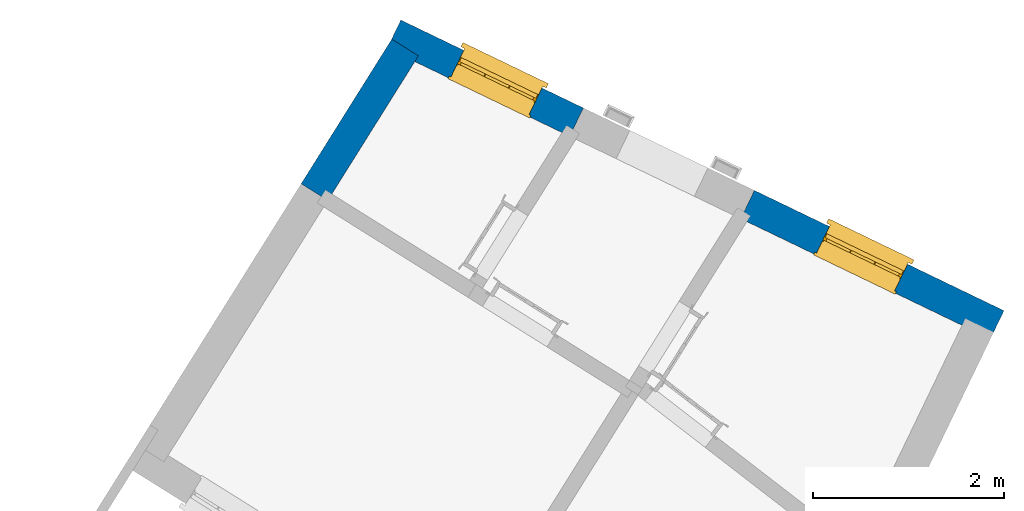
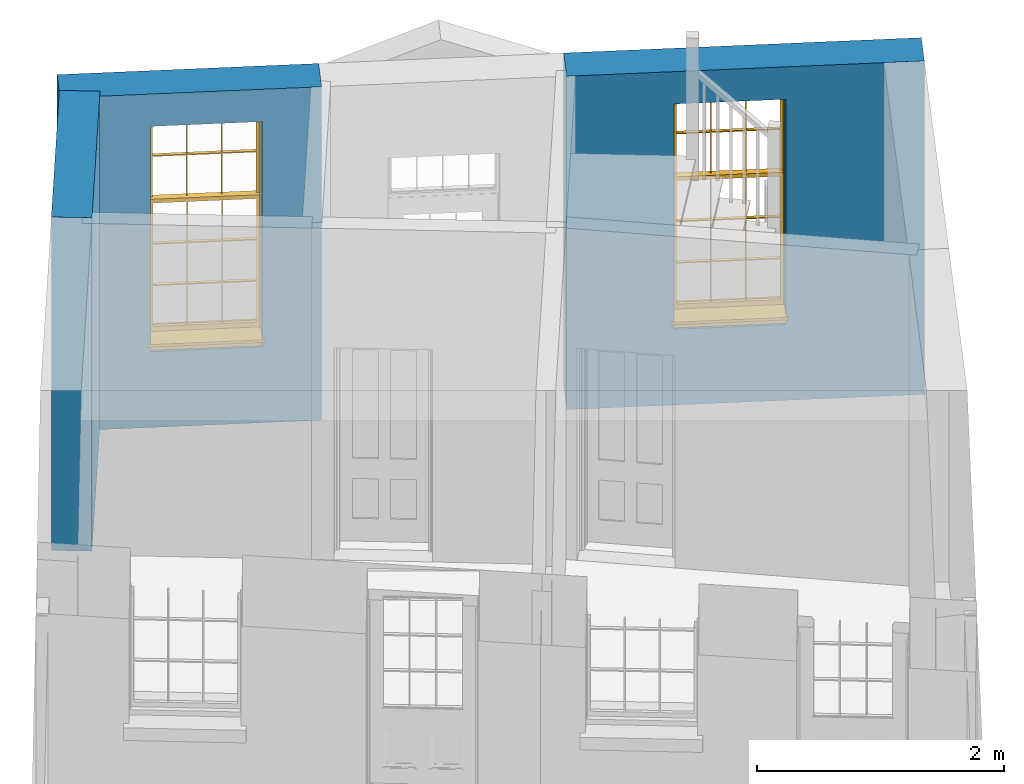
# One storey, part 4 of 6: 3 walls, 2 windows, 2 openings.
"""IFC4 building model written with IfcOpenShell, lengths in metres."""

import ifcopenshell
import ifcopenshell.guid

model = None  # the IFC model being written
_history = None  # IfcOwnerHistory: only IFC2X3 demands one
_inside = {}  # id of a spatial element -> (the spatial element, [elements in it])
_under = {}  # id of a project, library or spatial element -> (it, [spatial elements below it])
_declared = {}  # id of a project -> (the project, [libraries it declares])
_typed = {}  # id of a type object -> (the type object, [elements of that type])
_made_of = {}  # id of a material, layer set ... -> (it, [elements and type objects made of it])


def new_model(schema):
    """Start an empty IFC model of exactly this schema.

    Asked for "IFC4X3", IfcOpenShell would pick the latest addendum, in which some entities
    have other attributes; the version numbers below select the first issue.
    IFC2X3 requires an IfcOwnerHistory on every rooted entity: one is made here for all.
    """
    global model, _history
    if schema == "IFC4X3":
        model = ifcopenshell.file(schema_version=(4, 3, 0, 0))
    else:
        model = ifcopenshell.file(schema=schema)
    _inside.clear()
    _under.clear()
    _declared.clear()
    _typed.clear()
    _made_of.clear()
    _history = None
    if model.schema == "IFC2X3":
        org = make("IfcOrganization", Name="unknown")
        user = make(
            "IfcPersonAndOrganization",
            ThePerson=make("IfcPerson", FamilyName="unknown"),
            TheOrganization=org,
        )
        app = make(
            "IfcApplication",
            ApplicationDeveloper=org,
            Version="unknown",
            ApplicationFullName="unknown",
            ApplicationIdentifier="unknown",
        )
        _history = make(
            "IfcOwnerHistory",
            OwningUser=user,
            OwningApplication=app,
            ChangeAction="ADDED",
            CreationDate=0,
        )
    return model


def make(cls, **values):
    """One entity of the class cls with the attributes given. An attribute that is None is left unset."""
    return model.create_entity(
        cls, **{name: value for name, value in values.items() if value is not None}
    )


def rooted(cls, **values):
    """An entity with a GlobalId (a new one), such as an element, a storey or a relation."""
    return make(cls, GlobalId=ifcopenshell.guid.new(), OwnerHistory=_history, **values)


def si_unit(unit_type, name, prefix=None):
    """IfcSIUnit, for example si_unit("LENGTHUNIT", "METRE", prefix="MILLI")."""
    return make("IfcSIUnit", UnitType=unit_type, Prefix=prefix, Name=name)


def assignment(units):
    """IfcUnitAssignment: the units of a project."""
    return None if units is None else make("IfcUnitAssignment", Units=units)


def point(xyz):
    """IfcCartesianPoint."""
    return None if xyz is None else make("IfcCartesianPoint", Coordinates=xyz)


def direction(xyz):
    """IfcDirection."""
    return None if xyz is None else make("IfcDirection", DirectionRatios=xyz)


def frame(location, z_axis=None, x_axis=None):
    """IfcAxis2Placement3D, a coordinate frame: its origin and axes. An axis left out is left unset."""
    return make(
        "IfcAxis2Placement3D",
        Location=point(location),
        Axis=direction(z_axis),
        RefDirection=direction(x_axis),
    )


def origin():
    """The frame at (0, 0, 0) with its axes left unset."""
    return frame((0.0, 0.0, 0.0))


def origin_with_axes():
    """The frame at (0, 0, 0) with the z axis (0, 0, 1) and the x axis (1, 0, 0) written out."""
    return frame((0.0, 0.0, 0.0), z_axis=(0.0, 0.0, 1.0), x_axis=(1.0, 0.0, 0.0))


def place(relative_to, where):
    """IfcLocalPlacement: puts the frame where relative to a parent placement (None: the world)."""
    return make(
        "IfcLocalPlacement", PlacementRelTo=relative_to, RelativePlacement=where
    )


def context(
    kind, dimensions, precision=None, world=None, true_north=None, identifier=None
):
    """IfcGeometricRepresentationContext, for example the 3D "Model" context."""
    return make(
        "IfcGeometricRepresentationContext",
        ContextIdentifier=identifier,
        ContextType=kind,
        CoordinateSpaceDimension=dimensions,
        Precision=precision,
        WorldCoordinateSystem=world,
        TrueNorth=true_north,
    )


def subcontext(parent, identifier, kind, view, scale=None):
    """IfcGeometricRepresentationSubContext, for example "Body" below "Model"."""
    return make(
        "IfcGeometricRepresentationSubContext",
        ContextIdentifier=identifier,
        ContextType=kind,
        ParentContext=parent,
        TargetScale=scale,
        TargetView=view,
    )


def project(units=None, contexts=None):
    """IfcProject with its units and contexts."""
    return rooted(
        "IfcProject",
        Name="project",
        RepresentationContexts=contexts,
        UnitsInContext=assignment(units),
    )


def spatial(cls, under=None, at=None, **own):
    """A site, building, storey or space (cls), placed at a placement, below another one or the project."""
    s = rooted(cls, ObjectPlacement=at, **own)
    if under is not None:
        _under.setdefault(under.id(), (under, []))[1].append(s)
    return s


def polyline(points):
    """IfcPolyline through the points."""
    return make("IfcPolyline", Points=[point(p) for p in points])


def outline(outer, holes=None, kind="AREA"):
    """IfcArbitraryClosedProfileDef: a profile drawn as a closed curve; with holes, ...WithVoids."""
    if holes is None:
        return make("IfcArbitraryClosedProfileDef", ProfileType=kind, OuterCurve=outer)
    return make(
        "IfcArbitraryProfileDefWithVoids",
        ProfileType=kind,
        OuterCurve=outer,
        InnerCurves=holes,
    )


def extrude(swept, where, along, depth):
    """IfcExtrudedAreaSolid: the profile swept, set in the frame where, extruded along a direction by depth."""
    return make(
        "IfcExtrudedAreaSolid",
        SweptArea=swept,
        Position=where,
        ExtrudedDirection=direction(along),
        Depth=depth,
    )


def faces_of(points, faces, orient=None, outer=None):
    """IfcFace entities. A face is a list of loops; a loop is a list of indices into points, from 0.

    orient and outer hold one flag for each loop. By default every Orientation is true, the
    first loop of a face is its IfcFaceOuterBound and the others are IfcFaceBound.
    """
    made = []
    for i, loops in enumerate(faces):
        bounds = []
        for j, loop in enumerate(loops):
            is_outer = j == 0 if outer is None else outer[i][j]
            bounds.append(
                make(
                    "IfcFaceOuterBound" if is_outer else "IfcFaceBound",
                    Bound=make("IfcPolyLoop", Polygon=[points[k] for k in loop]),
                    Orientation=True if orient is None else orient[i][j],
                )
            )
        made.append(make("IfcFace", Bounds=bounds))
    return made


def faceted_brep(points, faces, orient=None, outer=None, voids=None):
    """IfcFacetedBrep: a solid bounded by flat faces; with voids (closed shells), ...WithVoids."""
    shared = [point(p) for p in points]
    hull = make("IfcClosedShell", CfsFaces=faces_of(shared, faces, orient, outer))
    if voids is None:
        return make("IfcFacetedBrep", Outer=hull)
    return make(
        "IfcFacetedBrepWithVoids",
        Outer=hull,
        Voids=[
            make(cls, CfsFaces=faces_of(shared, fs, o, b)) for cls, fs, o, b in voids
        ],
    )


def shape(context_of_items, identifier, shape_type, items):
    """IfcShapeRepresentation: the items that make up one representation, for example the "Body"."""
    return make(
        "IfcShapeRepresentation",
        ContextOfItems=context_of_items,
        RepresentationIdentifier=identifier,
        RepresentationType=shape_type,
        Items=items,
    )


def source(mapping_origin, context_of_items, identifier, shape_type, items):
    """IfcRepresentationMap: a shape defined once, which mapped items show again and again."""
    return make(
        "IfcRepresentationMap",
        MappingOrigin=mapping_origin,
        MappedRepresentation=shape(context_of_items, identifier, shape_type, items),
    )


def transform(
    local_origin,
    x_axis=None,
    y_axis=None,
    z_axis=None,
    scale=None,
    scale2=None,
    scale3=None,
    uniform=True,
):
    """IfcCartesianTransformationOperator3D, or its non-uniform kind. x_axis, y_axis, z_axis: its Axis1, 2, 3."""
    if uniform:
        return make(
            "IfcCartesianTransformationOperator3D",
            Axis1=direction(x_axis),
            Axis2=direction(y_axis),
            LocalOrigin=point(local_origin),
            Scale=scale,
            Axis3=direction(z_axis),
        )
    return make(
        "IfcCartesianTransformationOperator3DnonUniform",
        Axis1=direction(x_axis),
        Axis2=direction(y_axis),
        LocalOrigin=point(local_origin),
        Scale=scale,
        Axis3=direction(z_axis),
        Scale2=scale2,
        Scale3=scale3,
    )


def mapped(mapping_source, mapping_target):
    """IfcMappedItem: shows the shape of a source again, moved by a transform."""
    return make(
        "IfcMappedItem", MappingSource=mapping_source, MappingTarget=mapping_target
    )


def material(Name=None, Category=None):
    """IfcMaterial."""
    return make("IfcMaterial", Name=Name, Category=Category)


def layer(
    of_material, thickness, ventilated=None, Name=None, Category=None, Priority=None
):
    """IfcMaterialLayer: one layer of a wall or slab, of a material (None: an air gap)."""
    return make(
        "IfcMaterialLayer",
        Material=of_material,
        LayerThickness=thickness,
        IsVentilated=ventilated,
        Name=Name,
        Category=Category,
        Priority=Priority,
    )


def layer_set(layers, Name=None):
    """IfcMaterialLayerSet."""
    return make("IfcMaterialLayerSet", MaterialLayers=layers, LayerSetName=Name)


def layer_usage(for_layer_set, set_direction, sense, offset, extent=None):
    """IfcMaterialLayerSetUsage: how a layer set lies in its element."""
    return make(
        "IfcMaterialLayerSetUsage",
        ForLayerSet=for_layer_set,
        LayerSetDirection=set_direction,
        DirectionSense=sense,
        OffsetFromReferenceLine=offset,
        ReferenceExtent=extent,
    )


def made_of(thing, what):
    """Note that an element or type object is made of a material, layer set ...; save() writes the relation."""
    if what is not None:
        _made_of.setdefault(what.id(), (what, []))[1].append(thing)
    return thing


def type_object(cls, material=None, **own):
    """A type object (cls), such as IfcWallType, which elements share."""
    return made_of(rooted(cls, **own), material)


def type_shapes(of_type, sources):
    """Give a type object the sources (RepresentationMaps) that its elements show as mapped items."""
    of_type.RepresentationMaps = sources


def element(
    cls,
    number,
    at=None,
    inside=None,
    cuts=None,
    type_object=None,
    material=None,
    context=None,
    identifier="Body",
    shape_type=None,
    held_by="IfcProductDefinitionShape",
    body=None,
    shapes=None,
    **own,
):
    """One element of the class cls, such as IfcWall. Its Tag is "e" and its number.

    at: its placement. inside: the storey or other place that contains it. cuts: it is an
    opening in that element (IfcRelVoidsElement). A single representation is given by context,
    identifier, shape_type and body (its items); several are given by shapes. held_by: the class
    of the entity that holds the representations. save() writes the other relations.
    """
    e = rooted(cls, Tag="e%d" % number, ObjectPlacement=at, **own)
    if body is not None:
        shapes = [shape(context, identifier, shape_type, body)]
    if shapes is not None:
        e.Representation = make(held_by, Representations=shapes)
    if inside is not None:
        _inside.setdefault(inside.id(), (inside, []))[1].append(e)
    if cuts is not None:
        rooted(
            "IfcRelVoidsElement", RelatingBuildingElement=cuts, RelatedOpeningElement=e
        )
    if type_object is not None:
        _typed.setdefault(type_object.id(), (type_object, []))[1].append(e)
    return made_of(e, material)


def fill(opening, filler):
    """IfcRelFillsElement: the door or window that sits in an opening."""
    return rooted(
        "IfcRelFillsElement",
        RelatingOpeningElement=opening,
        RelatedBuildingElement=filler,
    )


def aggregate(whole, parts):
    """IfcRelAggregates: a whole, such as a stair, and the parts it consists of."""
    return rooted("IfcRelAggregates", RelatingObject=whole, RelatedObjects=parts)


def save(model, path):
    """Write the relations noted so far, then the file.

    IfcRelAggregates (storeys below a building ...), IfcRelContainedInSpatialStructure (elements
    in a storey), IfcRelDefinesByType, IfcRelAssociatesMaterial and IfcRelDeclares: one each for
    every whole, place, type object, material and project.
    """
    for whole, parts in _under.values():
        aggregate(whole, parts)
    for where, things in _inside.values():
        rooted(
            "IfcRelContainedInSpatialStructure",
            RelatedElements=things,
            RelatingStructure=where,
        )
    for kind, things in _typed.values():
        rooted("IfcRelDefinesByType", RelatedObjects=things, RelatingType=kind)
    for what, things in _made_of.values():
        rooted("IfcRelAssociatesMaterial", RelatedObjects=things, RelatingMaterial=what)
    for by, libraries in _declared.values():
        rooted("IfcRelDeclares", RelatingContext=by, RelatedDefinitions=libraries)
    model.write(path)


model = new_model("IFC4")

# Units and contexts
model_context = context("Model", 3, world=origin_with_axes())
body_context = subcontext(model_context, "Body", "Model", "MODEL_VIEW")
ifc_project = project(units=[si_unit("PLANEANGLEUNIT", "RADIAN"), si_unit("MASSUNIT", "GRAM", prefix="KILO"), si_unit("FORCEUNIT", "NEWTON", prefix="KILO"), si_unit("LENGTHUNIT", "METRE"), si_unit("AREAUNIT", "SQUARE_METRE"), si_unit("VOLUMEUNIT", "CUBIC_METRE")], contexts=[model_context, model_context])

# Sites, building, storey
site_1_placement = place(None, origin_with_axes())
site_1 = spatial("IfcSite", under=ifc_project, at=site_1_placement, Name="Tamar")
site_2_placement = place(site_1_placement, origin_with_axes())
site_2 = spatial("IfcSite", under=site_1, at=site_2_placement, Name="Site plot-0", CompositionType="ELEMENT")
building_placement = place(None, origin_with_axes())
building = spatial("IfcBuilding", under=site_2, at=building_placement, Name="Building plot-0", CompositionType="ELEMENT")
storey_placement = place(None, frame((0.0, 0.0, 26.0), z_axis=(0.0, 0.0, 1.0), x_axis=(1.0, 0.0, 0.0)))
storey = spatial("IfcBuildingStorey", under=building, at=storey_placement, Name="plot-0 0", CompositionType="ELEMENT", Elevation=26.0)

# Wall, opening, window
ifc_material_1 = material(Name="Masonry")
ifc_layer_1 = layer(ifc_material_1, 0.33, ventilated=False)
ifc_layer_set_1 = layer_set([ifc_layer_1], Name="exterior_0.08_0.25")
ifc_layer_usage_1 = layer_usage(ifc_layer_set_1, "AXIS2", "POSITIVE", -0.25)
wall_type_1 = type_object("IfcWallType", Name="exterior_0.08_0.25", PredefinedType="SOLIDWALL", material=ifc_layer_set_1)
wall_1_placement = place(storey_placement, frame((221.398308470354, 300.079731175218, 0.0), z_axis=(0.0, 0.0, 1.0), x_axis=(-0.900856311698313, 0.434117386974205, 0.0)))
wall_1 = element("IfcWall", 1, at=wall_1_placement, inside=storey, type_object=wall_type_1, material=ifc_layer_usage_1, Name="exterior", context=body_context, shape_type="SweptSolid", body=[
    extrude(outline(polyline([(-0.249999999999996, 0.0799999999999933), (-0.249999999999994, -0.250000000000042), (2.65789805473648, -0.250000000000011), (2.65789805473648, 0.0800000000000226), (-0.249999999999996, 0.0799999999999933)])), origin_with_axes(), (0.0, 0.0, 1.0), 3.3),
])
opening_1_placement = place(wall_1_placement, frame((0.873949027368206, 0.0, 0.75)))
opening_1 = element("IfcOpeningElement", 2, at=opening_1_placement, cuts=wall_1, Name="My Opening", ObjectType="Opening", context=body_context, shape_type="SweptSolid", body=[
    extrude(outline(polyline([(0.0, -0.269999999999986), (0.910000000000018, -0.269999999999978), (0.910000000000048, 1.09999999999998), (3.05311331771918e-14, 1.09999999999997), (0.0, -0.269999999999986)])), origin_with_axes(), (0.0, 0.0, 1.0), 2.23),
])
window_type = type_object("IfcWindowType", Name="sash_big_taller", PartitioningType="DOUBLE_PANEL_HORIZONTAL", PredefinedType="NOTDEFINED")
shared_shape = source(origin(), body_context, "Body", "Brep", [
    faceted_brep([(0.033125, 0.145, 1.385209), (0.01, 0.145, 1.385209), (0.033125, 0.145, 1.786042), (0.876875, 0.145, 1.385209), (0.876875, 0.145, 1.786042), (0.9, 0.145, 1.385209), (0.876875, 0.145, 1.796042), (0.876875, 0.145, 2.196875), (0.9, 0.145, 2.22), (0.033125, 0.145, 2.196875), (0.033125, 0.145, 1.796042), (0.01, 0.145, 2.22), (0.876875, 0.115, 1.786042), (0.876875, 0.115, 1.385209), (0.9, 0.115, 1.347084), (0.033125, 0.115, 2.196875), (0.01, 0.115, 2.22), (0.033125, 0.115, 1.796042), (0.01, 0.115, 1.347084), (0.033125, 0.115, 1.385209), (0.033125, 0.115, 1.786042), (0.876875, 0.115, 2.196875), (0.876875, 0.115, 1.796042), (0.9, 0.115, 2.22), (0.033125, 0.145, 1.347084), (0.01, 0.145, 1.347084), (0.033125, 0.145, 0.94625), (0.876875, 0.145, 1.347084), (0.876875, 0.145, 0.94625), (0.9, 0.145, 1.347084), (0.876875, 0.145, 0.52625), (0.876875, 0.145, 0.125417), (0.9, 0.145, 0.077167), (0.033125, 0.145, 0.125417), (0.033125, 0.145, 0.52625), (0.01, 0.145, 0.077167), (-0.0425, 0.0, 0.01), (-0.0425, -0.05, 0.001667), (0.0, 0.0, 0.01), (0.9525, 0.0, 0.01), (0.91, 0.0, 0.01), (0.9525, -0.05, 0.001667), (-0.02, 0.33, 0.077167), (0.0, 0.33, 0.077167), (-0.02, 0.36, 0.077167), (0.0, 0.19, 0.077167), (0.01, 0.19, 0.077167), (0.91, 0.19, 0.077167), (0.91, 0.33, 0.077167), (0.9, 0.19, 0.077167), (0.93, 0.33, 0.077167), (0.93, 0.36, 0.077167), (0.01, 0.175, 1.385209), (0.9, 0.175, 1.385209), (0.876875, 0.175, 0.125417), (0.876875, 0.175, 0.52625), (0.9, 0.175, 0.077167), (0.876875, 0.175, 0.94625), (0.876875, 0.175, 1.347084), (0.033125, 0.175, 0.125417), (0.01, 0.175, 0.077167), (0.033125, 0.175, 0.52625), (0.033125, 0.175, 1.347084), (0.033125, 0.175, 0.94625), (-0.02, 0.33, 0.052167), (-0.02, 0.36, 0.052167), (0.93, 0.36, 0.052167), (0.93, 0.33, 0.052167), (0.91, 0.33, 0.052167), (0.0, 0.33, 0.052167), (0.91, 0.1, 0.026667), (0.0, 0.1, 0.026667), (-0.0425, -0.05, -0.123333), (0.9525, -0.05, -0.123333), (-0.0425, 0.0, -0.123333), (0.9525, 0.0, -0.123333), (0.01, 0.19, 2.22), (0.9, 0.19, 2.22), (0.0, 0.19, 2.23), (0.91, 0.19, 2.23), (0.01, 0.1, 0.077167), (0.9, 0.1, 0.077167), (0.592292, 0.145, 0.125417), (0.592292, 0.175, 0.125417), (0.317708, 0.175, 0.125417), (0.317708, 0.145, 0.125417), (0.592292, 0.145, 0.53625), (0.317708, 0.145, 0.53625), (0.317708, 0.145, 0.52625), (0.592292, 0.145, 0.52625), (0.592292, 0.175, 0.53625), (0.317708, 0.175, 0.53625), (0.592292, 0.115, 1.796042), (0.592292, 0.145, 1.796042), (0.317708, 0.145, 1.796042), (0.317708, 0.115, 1.796042), (0.317708, 0.115, 1.786042), (0.592292, 0.115, 1.786042), (0.317708, 0.145, 1.786042), (0.592292, 0.145, 1.786042), (0.602292, 0.115, 1.786042), (0.592292, 0.115, 1.385209), (0.602292, 0.115, 1.385209), (0.602292, 0.145, 1.385209), (0.592292, 0.145, 1.385209), (0.602292, 0.145, 1.786042), (0.876875, 0.145, 0.53625), (0.876875, 0.175, 0.53625), (0.602292, 0.175, 0.53625), (0.602292, 0.145, 0.53625), (0.317708, 0.175, 0.52625), (0.307708, 0.175, 0.125417), (0.307708, 0.175, 0.52625), (0.602292, 0.175, 0.52625), (0.602292, 0.175, 0.125417), (0.592292, 0.175, 0.52625), (0.307708, 0.175, 0.53625), (0.033125, 0.175, 0.53625), (0.317708, 0.175, 1.347084), (0.317708, 0.175, 0.94625), (0.307708, 0.175, 0.94625), (0.307708, 0.175, 1.347084), (0.602292, 0.175, 1.347084), (0.602292, 0.175, 0.94625), (0.592292, 0.175, 0.94625), (0.592292, 0.175, 1.347084), (0.307708, 0.145, 0.52625), (0.307708, 0.145, 0.125417), (0.307708, 0.145, 0.53625), (0.033125, 0.145, 0.53625), (0.307708, 0.145, 1.347084), (0.307708, 0.145, 0.94625), (0.592292, 0.145, 1.347084), (0.592292, 0.145, 0.94625), (0.317708, 0.145, 0.94625), (0.317708, 0.145, 1.347084), (0.602292, 0.145, 0.94625), (0.602292, 0.145, 1.347084), (0.602292, 0.145, 0.52625), (0.602292, 0.145, 0.125417), (0.307708, 0.115, 1.796042), (0.307708, 0.115, 1.786042), (0.307708, 0.115, 1.385209), (0.317708, 0.115, 1.385209), (0.317708, 0.115, 2.196875), (0.307708, 0.115, 2.196875), (0.602292, 0.115, 2.196875), (0.592292, 0.115, 2.196875), (0.602292, 0.115, 1.796042), (0.602292, 0.145, 1.796042), (0.307708, 0.145, 1.796042), (0.307708, 0.145, 2.196875), (0.317708, 0.145, 2.196875), (0.592292, 0.145, 2.196875), (0.602292, 0.145, 2.196875), (0.307708, 0.145, 1.786042), (0.317708, 0.145, 1.385209), (0.307708, 0.145, 1.385209), (0.876875, 0.175, 0.93625), (0.033125, 0.175, 0.93625), (0.033125, 0.145, 0.93625), (0.876875, 0.145, 0.93625), (0.91, 0.1, 2.23), (0.9, 0.1, 2.22), (0.01, 0.1, 2.22), (0.0, 0.1, 2.23), (0.91, 0.0, 0.0), (0.0, 0.0, 0.0), (0.91, 0.33, 0.0), (0.0, 0.33, 0.0), (0.317708, 0.145, 0.93625), (0.592292, 0.145, 0.93625), (0.317708, 0.175, 0.93625), (0.307708, 0.175, 0.93625), (0.602292, 0.175, 0.93625), (0.592292, 0.175, 0.93625), (0.307708, 0.145, 0.93625), (0.602292, 0.145, 0.93625)], [[[0, 1, 2]], [[3, 4, 5]], [[6, 7, 8]], [[9, 10, 11]], [[12, 13, 14]], [[15, 16, 17]], [[18, 19, 20]], [[21, 22, 23]], [[24, 25, 26]], [[27, 28, 29]], [[30, 31, 32]], [[33, 34, 35]], [[14, 27, 29]], [[25, 24, 18]], [[36, 37, 38]], [[39, 40, 41]], [[42, 43, 44]], [[45, 46, 43]], [[47, 48, 49]], [[50, 51, 48]], [[1, 0, 52]], [[5, 53, 3]], [[54, 55, 56]], [[57, 58, 53]], [[59, 60, 61]], [[62, 63, 52]], [[48, 43, 46, 49]], [[51, 44, 43, 48]], [[64, 42, 44, 65]], [[65, 44, 51, 66]], [[66, 51, 50, 67]], [[65, 66, 68, 69]], [[60, 56, 49, 46]], [[70, 71, 38, 40]], [[37, 41, 40, 38]], [[37, 72, 73, 41]], [[74, 75, 73, 72]], [[8, 11, 76, 77]], [[76, 78, 79, 77]], [[32, 35, 80, 81]], [[81, 80, 71, 70]], [[82, 83, 84, 85]], [[86, 87, 88, 89]], [[86, 90, 91, 87]], [[92, 93, 94, 95]], [[92, 95, 96, 97]], [[96, 98, 99, 97]], [[100, 97, 101, 102]], [[103, 104, 99, 105]], [[97, 99, 104, 101]], [[102, 103, 105, 100]], [[106, 107, 108, 109]], [[110, 84, 111, 112]], [[113, 114, 83, 115]], [[116, 112, 61, 117]], [[90, 115, 110, 91]], [[118, 119, 120, 121]], [[122, 123, 124, 125]], [[113, 108, 107, 55]], [[126, 112, 111, 127]], [[34, 61, 112, 126]], [[89, 115, 83, 82]], [[88, 110, 115, 89]], [[85, 84, 110, 88]], [[128, 116, 117, 129]], [[130, 121, 120, 131]], [[132, 125, 124, 133]], [[134, 119, 118, 135]], [[136, 123, 122, 137]], [[138, 113, 55, 30]], [[139, 114, 113, 138]], [[138, 30, 106, 109]], [[88, 126, 127, 85]], [[138, 89, 82, 139]], [[137, 132, 133, 136]], [[128, 129, 34, 126]], [[135, 130, 131, 134]], [[140, 17, 20, 141]], [[96, 141, 142, 143]], [[144, 145, 140, 95]], [[146, 147, 92, 148]], [[100, 12, 22, 148]], [[149, 6, 4, 105]], [[94, 150, 151, 152]], [[149, 93, 153, 154]], [[99, 98, 94, 93]], [[155, 2, 10, 150]], [[156, 157, 155, 98]], [[141, 155, 157, 142]], [[20, 2, 155, 141]], [[143, 156, 98, 96]], [[140, 150, 10, 17]], [[145, 151, 150, 140]], [[147, 153, 93, 92]], [[95, 94, 152, 144]], [[22, 6, 149, 148]], [[148, 149, 154, 146]], [[100, 105, 4, 12]], [[109, 86, 89, 138]], [[108, 113, 115, 90]], [[91, 110, 112, 116]], [[87, 128, 126, 88]], [[97, 100, 148, 92]], [[141, 96, 95, 140]], [[98, 155, 150, 94]], [[105, 99, 93, 149]], [[143, 101, 104, 156]], [[135, 118, 125, 132]], [[144, 152, 153, 147]], [[127, 111, 59, 33]], [[15, 9, 151, 145]], [[146, 154, 7, 21]], [[31, 54, 114, 139]], [[36, 74, 72, 37]], [[39, 41, 73, 75]], [[18, 14, 101, 143]], [[23, 16, 144, 147]], [[83, 56, 60, 84]], [[52, 53, 125, 118]], [[53, 52, 156, 104]], [[11, 8, 153, 152]], [[14, 18, 135, 132]], [[2, 1, 11, 10]], [[8, 5, 4, 6]], [[57, 53, 56, 158]], [[60, 52, 63, 159]], [[26, 25, 35, 160]], [[32, 29, 28, 161]], [[14, 23, 22, 12]], [[18, 20, 17, 16]], [[19, 0, 2, 20]], [[17, 10, 9, 15]], [[12, 4, 3, 13]], [[21, 7, 6, 22]], [[27, 58, 57, 28]], [[30, 55, 54, 31]], [[33, 59, 61, 34]], [[26, 63, 62, 24]], [[5, 8, 77, 53]], [[76, 11, 1, 52]], [[46, 45, 78, 76]], [[49, 77, 79, 47]], [[70, 162, 163, 81]], [[71, 80, 164, 165]], [[19, 142, 157, 0]], [[102, 13, 3, 103]], [[121, 130, 24, 62]], [[29, 32, 81, 14]], [[80, 35, 25, 18]], [[60, 46, 76, 52]], [[77, 49, 56, 53]], [[23, 14, 81, 163]], [[16, 164, 80, 18]], [[35, 85, 127]], [[127, 33, 35]], [[139, 82, 32]], [[32, 31, 139]], [[32, 82, 85, 35]], [[102, 101, 14]], [[14, 13, 102]], [[18, 143, 142]], [[142, 19, 18]], [[146, 21, 23]], [[23, 147, 146]], [[16, 15, 145]], [[145, 144, 16]], [[11, 152, 151]], [[151, 9, 11]], [[154, 153, 8]], [[8, 7, 154]], [[23, 163, 164, 16]], [[162, 165, 164, 163]], [[52, 118, 121]], [[121, 62, 52]], [[125, 53, 122]], [[58, 122, 53]], [[27, 137, 122, 58]], [[56, 83, 114]], [[114, 54, 56]], [[111, 84, 60]], [[60, 59, 111]], [[137, 27, 14]], [[14, 132, 137]], [[130, 135, 18]], [[18, 24, 130]], [[157, 156, 52]], [[52, 0, 157]], [[103, 3, 53]], [[53, 104, 103]], [[79, 78, 165, 162]], [[78, 45, 71, 165]], [[162, 70, 47, 79]], [[166, 75, 74, 167]], [[68, 66, 67]], [[48, 68, 67, 50]], [[69, 64, 65]], [[42, 64, 69, 43]], [[69, 68, 168, 169]], [[70, 68, 48, 47]], [[166, 168, 68, 70]], [[43, 69, 71, 45]], [[69, 169, 167, 71]], [[168, 166, 167, 169]], [[38, 167, 74, 36]], [[71, 167, 38]], [[39, 75, 166, 40]], [[40, 166, 70]], [[133, 134, 170, 171]], [[133, 124, 119, 134]], [[28, 57, 123, 136]], [[172, 91, 116, 173]], [[174, 108, 90, 175]], [[120, 173, 159, 63]], [[124, 175, 172, 119]], [[174, 123, 57, 158]], [[176, 173, 116, 128]], [[160, 159, 173, 176]], [[171, 175, 90, 86]], [[170, 172, 175, 171]], [[87, 91, 172, 170]], [[131, 120, 63, 26]], [[177, 174, 158, 161]], [[109, 108, 174, 177]], [[177, 161, 28, 136]], [[170, 176, 128, 87]], [[177, 171, 86, 109]], [[131, 26, 160, 176]], [[136, 133, 171, 177]], [[123, 174, 175, 124]], [[119, 172, 173, 120]], [[134, 131, 176, 170]], [[129, 117, 159, 160]], [[161, 158, 107, 106]], [[35, 34, 129]], [[35, 129, 160]], [[32, 106, 30]], [[32, 161, 106]], [[56, 55, 107]], [[56, 107, 158]], [[60, 117, 61]], [[60, 159, 117]]]),
])
type_shapes(window_type, [shared_shape])
window_1_placement = place(storey_placement, frame((220.72821766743, 300.702358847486, 0.75), z_axis=(0.0, 0.0, 1.0), x_axis=(-0.819779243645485, 0.395046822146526, 0.0)))
window_1 = element("IfcWindow", 3, at=window_1_placement, inside=storey, type_object=window_type, Name="circulation street window", OverallHeight=2.23, OverallWidth=0.91, context=body_context, shape_type="MappedRepresentation", body=[
    mapped(shared_shape, transform((0.0, 0.0, 0.0), scale=1.0)),
])
fill(opening_1, window_1)

wall_2_placement = place(storey_placement, frame((217.209668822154, 302.098212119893, 0.0), z_axis=(0.0, 0.0, 1.0), x_axis=(-0.900856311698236, 0.434117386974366, 0.0)))
wall_2 = element("IfcWall", 4, at=wall_2_placement, inside=storey, type_object=wall_type_1, material=ifc_layer_usage_1, Name="exterior", context=body_context, shape_type="SweptSolid", body=[
    extrude(outline(polyline([(-1.13993123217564e-14, 0.0800000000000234), (4.92536992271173e-14, -0.250000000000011), (2.12661916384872, -0.249999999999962), (2.12661916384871, 0.0800000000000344), (-1.13993123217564e-14, 0.0800000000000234)])), origin_with_axes(), (0.0, 0.0, 1.0), 3.3),
])
opening_2_placement = place(wall_2_placement, frame((0.483309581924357, 0.0, 0.75)))
opening_2 = element("IfcOpeningElement", 5, at=opening_2_placement, cuts=wall_2, Name="My Opening", ObjectType="Opening", context=body_context, shape_type="SweptSolid", body=[
    extrude(outline(polyline([(0.0, -0.269999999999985), (0.910000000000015, -0.270000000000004), (0.910000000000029, 1.1), (1.47104550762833e-14, 1.10000000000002), (0.0, -0.269999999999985)])), origin_with_axes(), (0.0, 0.0, 1.0), 2.23),
])
window_2_placement = place(storey_placement, frame((216.891488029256, 302.551256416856, 0.75), z_axis=(0.0, 0.0, 1.0), x_axis=(-0.819779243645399, 0.395046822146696, 0.0)))
window_2 = element("IfcWindow", 6, at=window_2_placement, inside=storey, type_object=window_type, Name="toilet street window", OverallHeight=2.23, OverallWidth=0.91, context=body_context, shape_type="MappedRepresentation", body=[
    mapped(shared_shape, transform((0.0, 0.0, 0.0), scale=1.0)),
])
fill(opening_2, window_2)

# Wall
ifc_material_2 = material(Name="Masonry")
ifc_layer_2 = layer(ifc_material_2, 0.33, ventilated=False)
ifc_layer_set_2 = layer_set([ifc_layer_2], Name="party_0.08_0.25")
ifc_layer_usage_2 = layer_usage(ifc_layer_set_2, "AXIS2", "POSITIVE", -0.25)
wall_type_2 = type_object("IfcWallType", Name="party_0.08_0.25", PredefinedType="SOLIDWALL", material=ifc_layer_set_2)
wall_3_placement = place(storey_placement, frame((215.519104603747, 302.912885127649, 0.0), z_axis=(0.0, 0.0, 1.0), x_axis=(-0.530945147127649, -0.847406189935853, 0.0)))
element("IfcWall", 7, at=wall_3_placement, inside=storey, type_object=wall_type_2, material=ifc_layer_usage_2, Name="party", context=body_context, shape_type="SweptSolid", body=[
    extrude(outline(polyline([(-3.85162653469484e-15, 0.080000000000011), (2.28859023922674e-14, -0.249999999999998), (1.79122940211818, -0.25), (1.79122940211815, 0.0800000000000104), (-3.85162653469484e-15, 0.080000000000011)])), origin_with_axes(), (0.0, 0.0, 1.0), 3.3),
])

save(model, "model.ifc")
